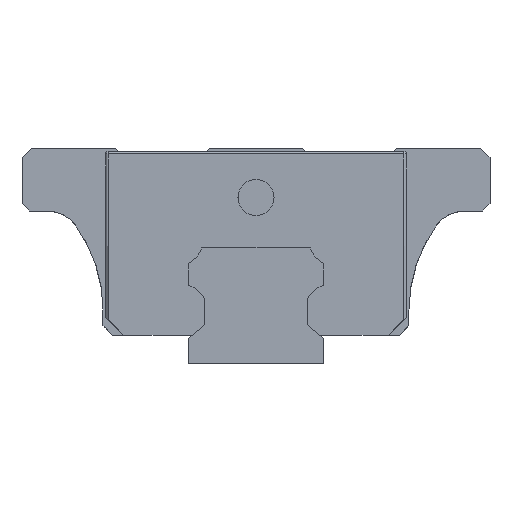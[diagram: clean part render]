
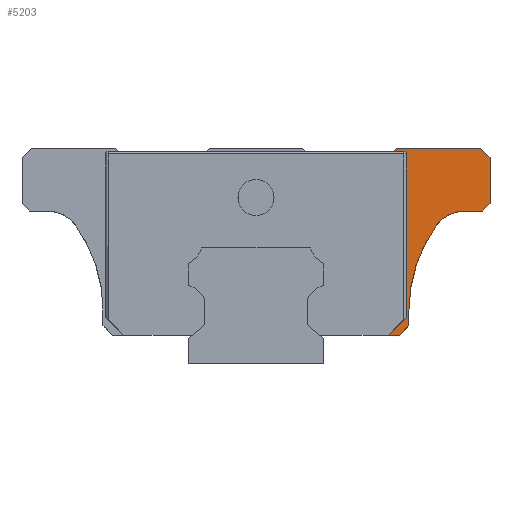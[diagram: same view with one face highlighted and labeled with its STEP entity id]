
A CAD part, left-side view. The second image highlights one B-rep face of the part: STEP entity #5203.
In plain terms, the highlighted planar face has unit normal (-1, 0, 0).
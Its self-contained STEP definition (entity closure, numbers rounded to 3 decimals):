
#56 = LINE ( 'NONE', #7479, #182 ) ;
#131 = DIRECTION ( 'NONE',  ( -1., 0., 0. ) ) ;
#167 = EDGE_CURVE ( 'NONE', #3021, #883, #6502, .T. ) ;
#182 = VECTOR ( 'NONE', #7552, 1000. ) ;
#234 = CARTESIAN_POINT ( 'NONE',  ( -19.75, -26., 17. ) ) ;
#344 = LINE ( 'NONE', #1611, #6942 ) ;
#392 = CARTESIAN_POINT ( 'NONE',  ( -19.75, -15.6, 24. ) ) ;
#477 = EDGE_CURVE ( 'NONE', #2413, #2959, #3893, .T. ) ;
#489 = CARTESIAN_POINT ( 'NONE',  ( -19.75, -24.95, 24. ) ) ;
#495 = VERTEX_POINT ( 'NONE', #2056 ) ;
#618 = CARTESIAN_POINT ( 'NONE',  ( -19.75, -26., 22.95 ) ) ;
#622 = ORIENTED_EDGE ( 'NONE', *, *, #2512, .T. ) ;
#771 = DIRECTION ( 'NONE',  ( 0., 0.707, 0.707 ) ) ;
#805 = LINE ( 'NONE', #5174, #6208 ) ;
#883 = VERTEX_POINT ( 'NONE', #618 ) ;
#1174 = DIRECTION ( 'NONE',  ( 0., -1., 0. ) ) ;
#1212 = VERTEX_POINT ( 'NONE', #489 ) ;
#1261 = DIRECTION ( 'NONE',  ( 0., 0., 1. ) ) ;
#1413 = ORIENTED_EDGE ( 'NONE', *, *, #5024, .T. ) ;
#1580 = AXIS2_PLACEMENT_3D ( 'NONE', #2098, #131, #5125 ) ;
#1611 = CARTESIAN_POINT ( 'NONE',  ( -19.75, -14.696, 3.2 ) ) ;
#1703 = VERTEX_POINT ( 'NONE', #7456 ) ;
#1711 = CARTESIAN_POINT ( 'NONE',  ( -19.75, -23.253, 13. ) ) ;
#1728 = ORIENTED_EDGE ( 'NONE', *, *, #8083, .T. ) ;
#1734 = VECTOR ( 'NONE', #3205, 1000. ) ;
#1865 = CARTESIAN_POINT ( 'NONE',  ( -19.75, -16.702, 5.2 ) ) ;
#1977 = CIRCLE ( 'NONE', #2379, 4. ) ;
#2024 = ORIENTED_EDGE ( 'NONE', *, *, #6795, .T. ) ;
#2026 = LINE ( 'NONE', #6985, #3043 ) ;
#2056 = CARTESIAN_POINT ( 'NONE',  ( -19.75, -14.696, 3.2 ) ) ;
#2075 = ORIENTED_EDGE ( 'NONE', *, *, #477, .T. ) ;
#2098 = CARTESIAN_POINT ( 'NONE',  ( -19.75, -6.587, 3.2 ) ) ;
#2180 = CARTESIAN_POINT ( 'NONE',  ( -19.75, -33., 6. ) ) ;
#2200 = LINE ( 'NONE', #4611, #6405 ) ;
#2379 = AXIS2_PLACEMENT_3D ( 'NONE', #1711, #4242, #4927 ) ;
#2413 = VERTEX_POINT ( 'NONE', #4273 ) ;
#2468 = ORIENTED_EDGE ( 'NONE', *, *, #4514, .T. ) ;
#2512 = EDGE_CURVE ( 'NONE', #2959, #5878, #1977, .T. ) ;
#2657 = LINE ( 'NONE', #5150, #3170 ) ;
#2658 = EDGE_CURVE ( 'NONE', #6107, #4903, #5283, .T. ) ;
#2673 = DIRECTION ( 'NONE',  ( 0., 0., 1. ) ) ;
#2678 = ORIENTED_EDGE ( 'NONE', *, *, #3258, .T. ) ;
#2941 = EDGE_CURVE ( 'NONE', #1703, #4635, #2026, .T. ) ;
#2959 = VERTEX_POINT ( 'NONE', #3904 ) ;
#3008 = LINE ( 'NONE', #5509, #6282 ) ;
#3021 = VERTEX_POINT ( 'NONE', #5774 ) ;
#3043 = VECTOR ( 'NONE', #3867, 1000. ) ;
#3168 = EDGE_CURVE ( 'NONE', #6561, #4903, #3432, .T. ) ;
#3170 = VECTOR ( 'NONE', #7655, 1000. ) ;
#3205 = DIRECTION ( 'NONE',  ( 0., 0., 1. ) ) ;
#3258 = EDGE_CURVE ( 'NONE', #5236, #3021, #5068, .T. ) ;
#3261 = CARTESIAN_POINT ( 'NONE',  ( -19.75, -16.702, 5.206 ) ) ;
#3432 = CIRCLE ( 'NONE', #8012, 0.26 ) ;
#3479 = EDGE_CURVE ( 'NONE', #6561, #6144, #2657, .T. ) ;
#3601 = CARTESIAN_POINT ( 'NONE',  ( -19.75, -16.442, 23.335 ) ) ;
#3680 = CARTESIAN_POINT ( 'NONE',  ( -19.75, -17., 4.25 ) ) ;
#3743 = DIRECTION ( 'NONE',  ( 0., 0., 1. ) ) ;
#3788 = ORIENTED_EDGE ( 'NONE', *, *, #2658, .F. ) ;
#3867 = DIRECTION ( 'NONE',  ( 0., -0.707, 0.707 ) ) ;
#3893 = CIRCLE ( 'NONE', #7434, 16. ) ;
#3894 = ORIENTED_EDGE ( 'NONE', *, *, #167, .T. ) ;
#3904 = CARTESIAN_POINT ( 'NONE',  ( -19.75, -20.004, 15.333 ) ) ;
#3942 = CARTESIAN_POINT ( 'NONE',  ( -19.75, -25.2, 17. ) ) ;
#4091 = VECTOR ( 'NONE', #7477, 1000. ) ;
#4184 = DIRECTION ( 'NONE',  ( 0., -0.707, 0.707 ) ) ;
#4208 = DIRECTION ( 'NONE',  ( 1., 0., 0. ) ) ;
#4237 = ORIENTED_EDGE ( 'NONE', *, *, #4358, .T. ) ;
#4242 = DIRECTION ( 'NONE',  ( 1., 0., 0. ) ) ;
#4273 = CARTESIAN_POINT ( 'NONE',  ( -19.75, -17., 6. ) ) ;
#4358 = EDGE_CURVE ( 'NONE', #5878, #5236, #3008, .T. ) ;
#4399 = ORIENTED_EDGE ( 'NONE', *, *, #3168, .T. ) ;
#4503 = PLANE ( 'NONE',  #1580 ) ;
#4506 = CARTESIAN_POINT ( 'NONE',  ( -19.75, -17., 6. ) ) ;
#4514 = EDGE_CURVE ( 'NONE', #495, #1703, #56, .T. ) ;
#4611 = CARTESIAN_POINT ( 'NONE',  ( -19.75, -24.95, 24. ) ) ;
#4635 = VERTEX_POINT ( 'NONE', #3680 ) ;
#4674 = CARTESIAN_POINT ( 'NONE',  ( -19.75, -16.442, 23.595 ) ) ;
#4772 = CARTESIAN_POINT ( 'NONE',  ( -19.75, -16.702, 23.335 ) ) ;
#4903 = VERTEX_POINT ( 'NONE', #4772 ) ;
#4927 = DIRECTION ( 'NONE',  ( 0., 0., 1. ) ) ;
#4993 = ORIENTED_EDGE ( 'NONE', *, *, #2941, .T. ) ;
#5024 = EDGE_CURVE ( 'NONE', #1212, #5278, #6866, .T. ) ;
#5025 = ORIENTED_EDGE ( 'NONE', *, *, #3479, .F. ) ;
#5068 = LINE ( 'NONE', #7578, #8021 ) ;
#5125 = DIRECTION ( 'NONE',  ( 0., 0., 1. ) ) ;
#5127 = LINE ( 'NONE', #4506, #1734 ) ;
#5150 = CARTESIAN_POINT ( 'NONE',  ( -19.75, -18.027, 23.595 ) ) ;
#5174 = CARTESIAN_POINT ( 'NONE',  ( -19.75, -15.6, 24. ) ) ;
#5203 = ADVANCED_FACE ( 'NONE', ( #6578 ), #4503, .T. ) ;
#5236 = VERTEX_POINT ( 'NONE', #3942 ) ;
#5278 = VERTEX_POINT ( 'NONE', #392 ) ;
#5283 = LINE ( 'NONE', #1865, #5357 ) ;
#5357 = VECTOR ( 'NONE', #3743, 1000. ) ;
#5509 = CARTESIAN_POINT ( 'NONE',  ( -19.75, -25.2, 17. ) ) ;
#5767 = EDGE_CURVE ( 'NONE', #495, #6107, #344, .T. ) ;
#5774 = CARTESIAN_POINT ( 'NONE',  ( -19.75, -26., 17.8 ) ) ;
#5791 = DIRECTION ( 'NONE',  ( 1., 0., 0. ) ) ;
#5826 = ORIENTED_EDGE ( 'NONE', *, *, #6361, .T. ) ;
#5878 = VERTEX_POINT ( 'NONE', #6920 ) ;
#6107 = VERTEX_POINT ( 'NONE', #3261 ) ;
#6144 = VERTEX_POINT ( 'NONE', #7278 ) ;
#6208 = VECTOR ( 'NONE', #7023, 1000. ) ;
#6219 = CARTESIAN_POINT ( 'NONE',  ( -19.75, -26., 24. ) ) ;
#6277 = DIRECTION ( 'NONE',  ( 0., -0.707, 0.707 ) ) ;
#6282 = VECTOR ( 'NONE', #1174, 1000. ) ;
#6361 = EDGE_CURVE ( 'NONE', #4635, #2413, #5127, .T. ) ;
#6405 = VECTOR ( 'NONE', #771, 1000. ) ;
#6502 = LINE ( 'NONE', #234, #7690 ) ;
#6561 = VERTEX_POINT ( 'NONE', #4674 ) ;
#6578 = FACE_OUTER_BOUND ( 'NONE', #6862, .T. ) ;
#6707 = ORIENTED_EDGE ( 'NONE', *, *, #5767, .F. ) ;
#6795 = EDGE_CURVE ( 'NONE', #5278, #6144, #805, .T. ) ;
#6862 = EDGE_LOOP ( 'NONE', ( #2678, #3894, #1728, #1413, #2024, #5025, #4399, #3788, #6707, #2468, #4993, #5826, #2075, #622, #4237 ) ) ;
#6866 = LINE ( 'NONE', #6219, #4091 ) ;
#6920 = CARTESIAN_POINT ( 'NONE',  ( -19.75, -23.253, 17. ) ) ;
#6942 = VECTOR ( 'NONE', #4184, 1000. ) ;
#6985 = CARTESIAN_POINT ( 'NONE',  ( -19.75, -17., 4.25 ) ) ;
#7023 = DIRECTION ( 'NONE',  ( 0., 0.643, -0.766 ) ) ;
#7152 = DIRECTION ( 'NONE',  ( 0., 0., 1. ) ) ;
#7278 = CARTESIAN_POINT ( 'NONE',  ( -19.75, -15.26, 23.595 ) ) ;
#7434 = AXIS2_PLACEMENT_3D ( 'NONE', #2180, #5791, #2673 ) ;
#7456 = CARTESIAN_POINT ( 'NONE',  ( -19.75, -15.95, 3.2 ) ) ;
#7477 = DIRECTION ( 'NONE',  ( 0., 1., 0. ) ) ;
#7479 = CARTESIAN_POINT ( 'NONE',  ( -19.75, -8.424, 3.2 ) ) ;
#7552 = DIRECTION ( 'NONE',  ( 0., -1., 0. ) ) ;
#7578 = CARTESIAN_POINT ( 'NONE',  ( -19.75, -26., 17.8 ) ) ;
#7655 = DIRECTION ( 'NONE',  ( 0., 1., 0. ) ) ;
#7690 = VECTOR ( 'NONE', #7152, 1000. ) ;
#8012 = AXIS2_PLACEMENT_3D ( 'NONE', #3601, #4208, #1261 ) ;
#8021 = VECTOR ( 'NONE', #6277, 1000. ) ;
#8083 = EDGE_CURVE ( 'NONE', #883, #1212, #2200, .T. ) ;
